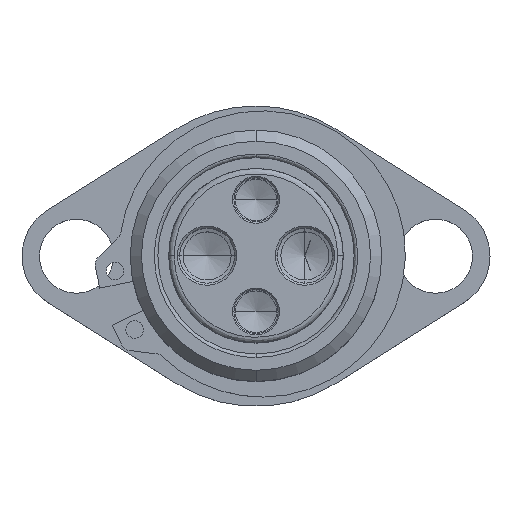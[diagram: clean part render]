
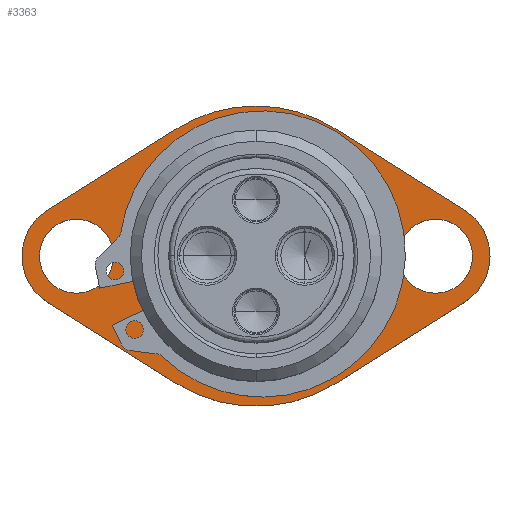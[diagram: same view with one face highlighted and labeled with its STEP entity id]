
A CAD part, top view. The second image highlights one B-rep face of the part: STEP entity #3363.
In plain terms, the highlighted planar face has unit normal (0, 0, 1) as drawn and (0, 1, 0) by its records, which use the part's own axes.
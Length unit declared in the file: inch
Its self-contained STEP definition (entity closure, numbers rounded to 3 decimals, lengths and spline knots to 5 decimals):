
#20 = CARTESIAN_POINT ( 'NONE',  ( -1.285, 0.25, 0. ) ) ;
#146 = DIRECTION ( 'NONE',  ( 0., 0., -1. ) ) ;
#243 = FACE_OUTER_BOUND ( 'NONE', #1959, .T. ) ;
#245 = AXIS2_PLACEMENT_3D ( 'NONE', #5082, #638, #1029 ) ;
#251 = CARTESIAN_POINT ( 'NONE',  ( 1.4929, 0.25, -0.32997 ) ) ;
#270 = CARTESIAN_POINT ( 'NONE',  ( -1.285, 0.25, 0.265 ) ) ;
#310 = CIRCLE ( 'NONE', #2197, 0.39 ) ;
#354 = DIRECTION ( 'NONE',  ( 0., 0., 1. ) ) ;
#425 = EDGE_LOOP ( 'NONE', ( #5053, #3200 ) ) ;
#538 = ORIENTED_EDGE ( 'NONE', *, *, #1070, .F. ) ;
#540 = CARTESIAN_POINT ( 'NONE',  ( 0.57305, 0.25, -0.90952 ) ) ;
#615 = FACE_BOUND ( 'NONE', #2734, .T. ) ;
#638 = DIRECTION ( 'NONE',  ( 0., -1., 0. ) ) ;
#659 = CARTESIAN_POINT ( 'NONE',  ( 0., 0.25, -0.9 ) ) ;
#693 = CARTESIAN_POINT ( 'NONE',  ( 0., 0.25, 0. ) ) ;
#738 = VECTOR ( 'NONE', #2429, 39.37008 ) ;
#753 = CARTESIAN_POINT ( 'NONE',  ( -1.4929, 0.25, -0.32997 ) ) ;
#788 = DIRECTION ( 'NONE',  ( -0.846, 0., 0.533 ) ) ;
#790 = CIRCLE ( 'NONE', #4837, 0.265 ) ;
#834 = VERTEX_POINT ( 'NONE', #4479 ) ;
#926 = DIRECTION ( 'NONE',  ( -0.846, 0., -0.533 ) ) ;
#951 = VERTEX_POINT ( 'NONE', #270 ) ;
#1021 = AXIS2_PLACEMENT_3D ( 'NONE', #3777, #3827, #1428 ) ;
#1029 = DIRECTION ( 'NONE',  ( 0., 0., -1. ) ) ;
#1042 = CIRCLE ( 'NONE', #1021, 1.075 ) ;
#1070 = EDGE_CURVE ( 'NONE', #2523, #1787, #4714, .T. ) ;
#1134 = CARTESIAN_POINT ( 'NONE',  ( 0., 0.25, 0. ) ) ;
#1142 = EDGE_CURVE ( 'NONE', #1306, #4744, #1609, .T. ) ;
#1177 = ORIENTED_EDGE ( 'NONE', *, *, #2020, .T. ) ;
#1180 = EDGE_CURVE ( 'NONE', #834, #1888, #2856, .T. ) ;
#1187 = CARTESIAN_POINT ( 'NONE',  ( 1.285, 0.25, -0.265 ) ) ;
#1243 = VECTOR ( 'NONE', #788, 39.37008 ) ;
#1280 = EDGE_CURVE ( 'NONE', #834, #3390, #310, .T. ) ;
#1306 = VERTEX_POINT ( 'NONE', #4522 ) ;
#1312 = DIRECTION ( 'NONE',  ( 0., -1., 0. ) ) ;
#1316 = DIRECTION ( 'NONE',  ( 0., -1., 0. ) ) ;
#1351 = EDGE_CURVE ( 'NONE', #1872, #2159, #4214, .T. ) ;
#1411 = EDGE_CURVE ( 'NONE', #2693, #1888, #1042, .T. ) ;
#1428 = DIRECTION ( 'NONE',  ( 0., 0., -1. ) ) ;
#1568 = AXIS2_PLACEMENT_3D ( 'NONE', #2048, #4818, #2064 ) ;
#1573 = CARTESIAN_POINT ( 'NONE',  ( -1.4929, 0.25, -0.32997 ) ) ;
#1609 = CIRCLE ( 'NONE', #2040, 1.075 ) ;
#1621 = CARTESIAN_POINT ( 'NONE',  ( -1.4929, 0.25, 0.32997 ) ) ;
#1769 = AXIS2_PLACEMENT_3D ( 'NONE', #4422, #2024, #4438 ) ;
#1787 = VERTEX_POINT ( 'NONE', #2262 ) ;
#1822 = CARTESIAN_POINT ( 'NONE',  ( 1.285, 0.25, 0. ) ) ;
#1872 = VERTEX_POINT ( 'NONE', #1187 ) ;
#1888 = VERTEX_POINT ( 'NONE', #2352 ) ;
#1917 = CARTESIAN_POINT ( 'NONE',  ( 0., 0.25, 0.9 ) ) ;
#1939 = ORIENTED_EDGE ( 'NONE', *, *, #4209, .T. ) ;
#1959 = EDGE_LOOP ( 'NONE', ( #4431, #2673, #3066, #3494, #4881, #1177, #538, #5048, #4954 ) ) ;
#2020 = EDGE_CURVE ( 'NONE', #2693, #1787, #5044, .T. ) ;
#2024 = DIRECTION ( 'NONE',  ( 0., -1., 0. ) ) ;
#2040 = AXIS2_PLACEMENT_3D ( 'NONE', #1134, #3527, #3548 ) ;
#2048 = CARTESIAN_POINT ( 'NONE',  ( 0., 0.25, 0. ) ) ;
#2064 = DIRECTION ( 'NONE',  ( 0., 0., -1. ) ) ;
#2159 = VERTEX_POINT ( 'NONE', #2681 ) ;
#2162 = DIRECTION ( 'NONE',  ( 0., 0., -1. ) ) ;
#2185 = EDGE_CURVE ( 'NONE', #4744, #2333, #3995, .T. ) ;
#2197 = AXIS2_PLACEMENT_3D ( 'NONE', #4942, #1312, #4097 ) ;
#2232 = DIRECTION ( 'NONE',  ( 0., 0., -1. ) ) ;
#2262 = CARTESIAN_POINT ( 'NONE',  ( 1.4929, 0.25, 0.32997 ) ) ;
#2333 = VERTEX_POINT ( 'NONE', #3749 ) ;
#2352 = CARTESIAN_POINT ( 'NONE',  ( -0.57305, 0.25, 0.90952 ) ) ;
#2408 = PLANE ( 'NONE',  #3337 ) ;
#2429 = DIRECTION ( 'NONE',  ( 0.846, 0., 0.533 ) ) ;
#2499 = CIRCLE ( 'NONE', #1568, 0.9 ) ;
#2523 = VERTEX_POINT ( 'NONE', #251 ) ;
#2542 = CIRCLE ( 'NONE', #3771, 0.265 ) ;
#2609 = VECTOR ( 'NONE', #926, 39.37008 ) ;
#2673 = ORIENTED_EDGE ( 'NONE', *, *, #2782, .T. ) ;
#2681 = CARTESIAN_POINT ( 'NONE',  ( 1.285, 0.25, 0.265 ) ) ;
#2693 = VERTEX_POINT ( 'NONE', #3547 ) ;
#2734 = EDGE_LOOP ( 'NONE', ( #4505, #3409 ) ) ;
#2782 = EDGE_CURVE ( 'NONE', #1306, #3390, #4649, .T. ) ;
#2856 = LINE ( 'NONE', #1621, #738 ) ;
#2918 = EDGE_CURVE ( 'NONE', #3191, #3146, #2499, .T. ) ;
#2924 = CARTESIAN_POINT ( 'NONE',  ( 1.285, 0.25, 0. ) ) ;
#2925 = AXIS2_PLACEMENT_3D ( 'NONE', #2924, #3324, #2162 ) ;
#2946 = VERTEX_POINT ( 'NONE', #4776 ) ;
#3017 = DIRECTION ( 'NONE',  ( 0., 0., -1. ) ) ;
#3046 = DIRECTION ( 'NONE',  ( 0., 0., -1. ) ) ;
#3066 = ORIENTED_EDGE ( 'NONE', *, *, #1280, .F. ) ;
#3093 = DIRECTION ( 'NONE',  ( 0., -1., 0. ) ) ;
#3146 = VERTEX_POINT ( 'NONE', #1917 ) ;
#3150 = AXIS2_PLACEMENT_3D ( 'NONE', #693, #3093, #3046 ) ;
#3158 = EDGE_LOOP ( 'NONE', ( #1939, #4739 ) ) ;
#3191 = VERTEX_POINT ( 'NONE', #659 ) ;
#3200 = ORIENTED_EDGE ( 'NONE', *, *, #3724, .T. ) ;
#3238 = CARTESIAN_POINT ( 'NONE',  ( 0., 0.25, -1.075 ) ) ;
#3324 = DIRECTION ( 'NONE',  ( 0., -1., 0. ) ) ;
#3337 = AXIS2_PLACEMENT_3D ( 'NONE', #20, #4713, #354 ) ;
#3363 = ADVANCED_FACE ( 'NONE', ( #3776, #243, #4273, #615 ), #2408, .T. ) ;
#3390 = VERTEX_POINT ( 'NONE', #1573 ) ;
#3406 = CARTESIAN_POINT ( 'NONE',  ( 0.57305, 0.25, 0.90952 ) ) ;
#3409 = ORIENTED_EDGE ( 'NONE', *, *, #4708, .T. ) ;
#3448 = DIRECTION ( 'NONE',  ( 0., -1., 0. ) ) ;
#3460 = CIRCLE ( 'NONE', #4633, 0.265 ) ;
#3472 = EDGE_CURVE ( 'NONE', #2523, #2333, #4406, .T. ) ;
#3494 = ORIENTED_EDGE ( 'NONE', *, *, #1180, .T. ) ;
#3527 = DIRECTION ( 'NONE',  ( 0., -1., 0. ) ) ;
#3547 = CARTESIAN_POINT ( 'NONE',  ( 0.57305, 0.25, 0.90952 ) ) ;
#3548 = DIRECTION ( 'NONE',  ( 0., 0., -1. ) ) ;
#3724 = EDGE_CURVE ( 'NONE', #2159, #1872, #3460, .T. ) ;
#3749 = CARTESIAN_POINT ( 'NONE',  ( 0.57305, 0.25, -0.90952 ) ) ;
#3771 = AXIS2_PLACEMENT_3D ( 'NONE', #4945, #1316, #146 ) ;
#3776 = FACE_BOUND ( 'NONE', #3158, .T. ) ;
#3777 = CARTESIAN_POINT ( 'NONE',  ( 0., 0.25, 0. ) ) ;
#3827 = DIRECTION ( 'NONE',  ( 0., -1., 0. ) ) ;
#3995 = CIRCLE ( 'NONE', #3150, 1.075 ) ;
#4097 = DIRECTION ( 'NONE',  ( 0., 0., -1. ) ) ;
#4149 = EDGE_CURVE ( 'NONE', #951, #2946, #2542, .T. ) ;
#4188 = DIRECTION ( 'NONE',  ( 0.846, 0., -0.533 ) ) ;
#4209 = EDGE_CURVE ( 'NONE', #2946, #951, #790, .T. ) ;
#4214 = CIRCLE ( 'NONE', #2925, 0.265 ) ;
#4273 = FACE_BOUND ( 'NONE', #425, .T. ) ;
#4406 = LINE ( 'NONE', #540, #2609 ) ;
#4422 = CARTESIAN_POINT ( 'NONE',  ( 0., 0.25, 0. ) ) ;
#4431 = ORIENTED_EDGE ( 'NONE', *, *, #1142, .F. ) ;
#4438 = DIRECTION ( 'NONE',  ( 0., 0., -1. ) ) ;
#4479 = CARTESIAN_POINT ( 'NONE',  ( -1.4929, 0.25, 0.32997 ) ) ;
#4505 = ORIENTED_EDGE ( 'NONE', *, *, #2918, .T. ) ;
#4522 = CARTESIAN_POINT ( 'NONE',  ( -0.57305, 0.25, -0.90952 ) ) ;
#4633 = AXIS2_PLACEMENT_3D ( 'NONE', #1822, #5023, #3017 ) ;
#4649 = LINE ( 'NONE', #753, #1243 ) ;
#4662 = VECTOR ( 'NONE', #4188, 39.37008 ) ;
#4708 = EDGE_CURVE ( 'NONE', #3146, #3191, #5060, .T. ) ;
#4713 = DIRECTION ( 'NONE',  ( 0., 1., 0. ) ) ;
#4714 = CIRCLE ( 'NONE', #245, 0.39 ) ;
#4739 = ORIENTED_EDGE ( 'NONE', *, *, #4149, .T. ) ;
#4744 = VERTEX_POINT ( 'NONE', #3238 ) ;
#4776 = CARTESIAN_POINT ( 'NONE',  ( -1.285, 0.25, -0.265 ) ) ;
#4818 = DIRECTION ( 'NONE',  ( 0., -1., 0. ) ) ;
#4837 = AXIS2_PLACEMENT_3D ( 'NONE', #4977, #3448, #2232 ) ;
#4881 = ORIENTED_EDGE ( 'NONE', *, *, #1411, .F. ) ;
#4942 = CARTESIAN_POINT ( 'NONE',  ( -1.285, 0.25, 0. ) ) ;
#4945 = CARTESIAN_POINT ( 'NONE',  ( -1.285, 0.25, 0. ) ) ;
#4954 = ORIENTED_EDGE ( 'NONE', *, *, #2185, .F. ) ;
#4977 = CARTESIAN_POINT ( 'NONE',  ( -1.285, 0.25, 0. ) ) ;
#5023 = DIRECTION ( 'NONE',  ( 0., -1., 0. ) ) ;
#5044 = LINE ( 'NONE', #3406, #4662 ) ;
#5048 = ORIENTED_EDGE ( 'NONE', *, *, #3472, .T. ) ;
#5053 = ORIENTED_EDGE ( 'NONE', *, *, #1351, .T. ) ;
#5060 = CIRCLE ( 'NONE', #1769, 0.9 ) ;
#5082 = CARTESIAN_POINT ( 'NONE',  ( 1.285, 0.25, 0. ) ) ;
